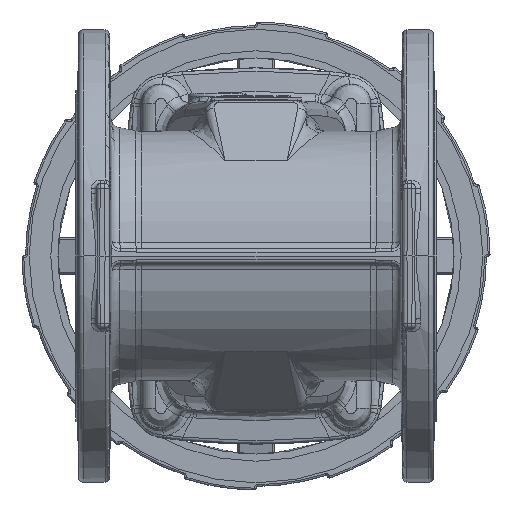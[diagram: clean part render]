
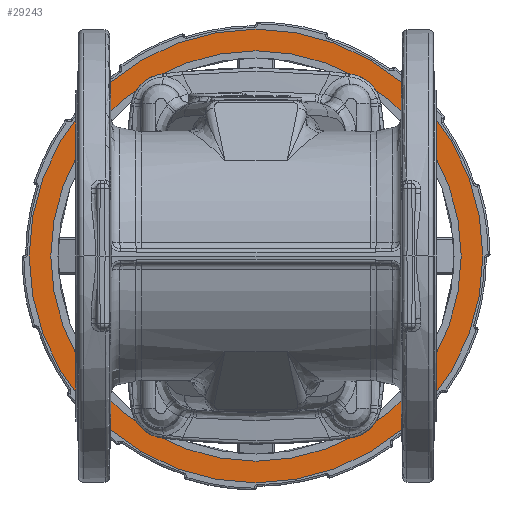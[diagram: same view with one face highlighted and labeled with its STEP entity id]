
A CAD part, front view. The second image highlights one B-rep face of the part: STEP entity #29243.
In plain terms, the highlighted planar face has unit normal (0, -1, 0).
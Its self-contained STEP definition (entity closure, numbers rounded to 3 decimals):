
#1877 = ORIENTED_EDGE ( 'NONE', *, *, #36152, .T. ) ;
#4909 = CARTESIAN_POINT ( 'NONE',  ( 114., 31.671, 0. ) ) ;
#8335 = CARTESIAN_POINT ( 'NONE',  ( 0., 31.671, 0. ) ) ;
#8880 = EDGE_CURVE ( 'NONE', #80017, #85281, #35958, .T. ) ;
#9670 = DIRECTION ( 'NONE',  ( 0., 0., 1. ) ) ;
#11417 = DIRECTION ( 'NONE',  ( 0., 1., 0. ) ) ;
#12410 = CARTESIAN_POINT ( 'NONE',  ( 0., 31.671, -126. ) ) ;
#13006 = DIRECTION ( 'NONE',  ( 0., 0., 1. ) ) ;
#14586 = CARTESIAN_POINT ( 'NONE',  ( 0., 31.671, 0. ) ) ;
#15643 = AXIS2_PLACEMENT_3D ( 'NONE', #94284, #114492, #9670 ) ;
#26330 = CARTESIAN_POINT ( 'NONE',  ( 0., 31.671, 126. ) ) ;
#29243 = ADVANCED_FACE ( 'NONE', ( #48893, #84219 ), #94609, .F. ) ;
#35958 = CIRCLE ( 'NONE', #15643, 114. ) ;
#36152 = EDGE_CURVE ( 'NONE', #85281, #80017, #95418, .T. ) ;
#42071 = ORIENTED_EDGE ( 'NONE', *, *, #95190, .F. ) ;
#43017 = EDGE_CURVE ( 'NONE', #101654, #92639, #46114, .T. ) ;
#43108 = DIRECTION ( 'NONE',  ( 0., 0., 1. ) ) ;
#45500 = AXIS2_PLACEMENT_3D ( 'NONE', #8335, #78990, #43108 ) ;
#46114 = CIRCLE ( 'NONE', #110849, 126. ) ;
#46180 = AXIS2_PLACEMENT_3D ( 'NONE', #14586, #66118, #110129 ) ;
#46731 = DIRECTION ( 'NONE',  ( 0., 0., 1. ) ) ;
#48638 = CARTESIAN_POINT ( 'NONE',  ( 0., 31.671, 114. ) ) ;
#48893 = FACE_OUTER_BOUND ( 'NONE', #80932, .T. ) ;
#49681 = AXIS2_PLACEMENT_3D ( 'NONE', #4909, #76669, #13006 ) ;
#55888 = ORIENTED_EDGE ( 'NONE', *, *, #8880, .T. ) ;
#66118 = DIRECTION ( 'NONE',  ( 0., 1., 0. ) ) ;
#66514 = CIRCLE ( 'NONE', #46180, 126. ) ;
#75866 = CARTESIAN_POINT ( 'NONE',  ( 0., 31.671, -114. ) ) ;
#76539 = ORIENTED_EDGE ( 'NONE', *, *, #43017, .F. ) ;
#76669 = DIRECTION ( 'NONE',  ( 0., 1., 0. ) ) ;
#78990 = DIRECTION ( 'NONE',  ( 0., 1., 0. ) ) ;
#80017 = VERTEX_POINT ( 'NONE', #48638 ) ;
#80932 = EDGE_LOOP ( 'NONE', ( #42071, #76539 ) ) ;
#84219 = FACE_BOUND ( 'NONE', #86623, .T. ) ;
#85281 = VERTEX_POINT ( 'NONE', #75866 ) ;
#86623 = EDGE_LOOP ( 'NONE', ( #55888, #1877 ) ) ;
#92639 = VERTEX_POINT ( 'NONE', #26330 ) ;
#94284 = CARTESIAN_POINT ( 'NONE',  ( 0., 31.671, 0. ) ) ;
#94609 = PLANE ( 'NONE',  #49681 ) ;
#95190 = EDGE_CURVE ( 'NONE', #92639, #101654, #66514, .T. ) ;
#95418 = CIRCLE ( 'NONE', #45500, 114. ) ;
#100015 = CARTESIAN_POINT ( 'NONE',  ( 0., 31.671, 0. ) ) ;
#101654 = VERTEX_POINT ( 'NONE', #12410 ) ;
#110129 = DIRECTION ( 'NONE',  ( 0., 0., 1. ) ) ;
#110849 = AXIS2_PLACEMENT_3D ( 'NONE', #100015, #11417, #46731 ) ;
#114492 = DIRECTION ( 'NONE',  ( 0., 1., 0. ) ) ;
